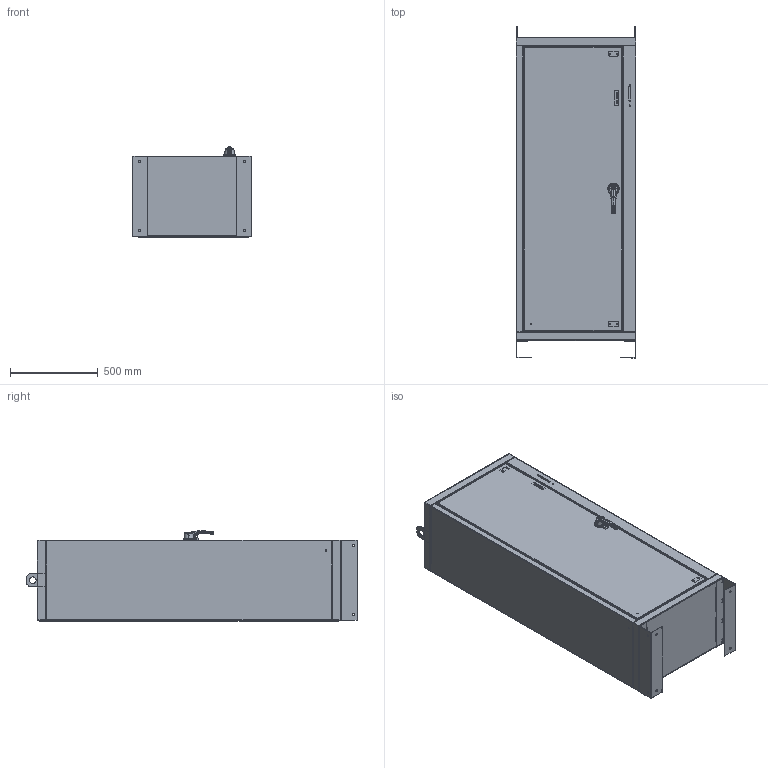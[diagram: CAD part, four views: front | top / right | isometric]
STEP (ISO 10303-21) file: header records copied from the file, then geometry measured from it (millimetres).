
FILE_DESCRIPTION (( 'STEP AP203' ), '1' );
FILE_NAME ('a72xn2718fslp.STEP', '2019-06-26T20:44:22', ( '' ), ( '' ), 'SwSTEP 2.0', 'SolidWorks 2016', '' );
FILE_SCHEMA (( 'CONFIG_CONTROL_DESIGN' ));
Length unit declared in the file: inch
Products named in the file (46): 87933089; 87932715; 89099501; 87579733; 89043565_89043565; 87568544; 87933760; 89099221; 89099468; 89099301; 89099812; 89110208_default; 87932357; 87920449_87920449; 89099487; 89099353; 11158273; 87933100; 27157001; 89099259; 89099480; 99414777_99414777; 89099816; 99401318_99401318; 87933768; 87579270; 89099419; 89099368; 22318008; 99414187; 87932705; 99401422_99401422; 87578167; a72xn2718fslp; 89090813; 89096993; 87932700; 87932691; 99404177_Config-Drawing; 87800105_87800105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
Assembly tree (73 placements, depth 5):
  a72xn2718fslp
    89099501
      89099468
      89099487
      89099480
      89099419
      87578167  x2
      99404177_Config-Drawing
      87948978  x2
    89099301
      89099259
        89099221
        99404177_Config-Drawing  x7
        87920449_87920449  x2
      87579270  x2
      99401422_99401422  x6
      87933100
        87932715
          87932691
          87932695
        87933760
        87932357
        27157001
        87933768
        87932705
        87932700
        87950960
        87933089
        87568544
        89110208_default
      99401318_99401318  x2
      99414187  x2
      89096993
      22108006
      87780091
      89043565_89043565
      89099816  x2
        89099812
        11158273
      22318008  x2
      89090813  x2
      87800105_87800105  x3
      87800103_87800103
      87579733
    89099368
      89099353
      99414777_99414777  x6
Bounding box: 684.02 x 1892.25 x 515.07 mm (x, y, z)
Volume: 11757880.3 mm3; surface area: 11645911.4 mm2
Topology: 68 solids, 68 shells, 4799 faces, 11689 edges, 7124 vertices
Faces by surface type: cylinder 1545, plane 1320, bspline 991, cone 471, torus 277, sphere 195
Entity records: 174475 total; most frequent: CARTESIAN_POINT 92034, ORIENTED_EDGE 17238, DIRECTION 14176, EDGE_CURVE 8619, AXIS2_PLACEMENT_3D 5294, VERTEX_POINT 5219, EDGE_LOOP 3842, LINE 3588
